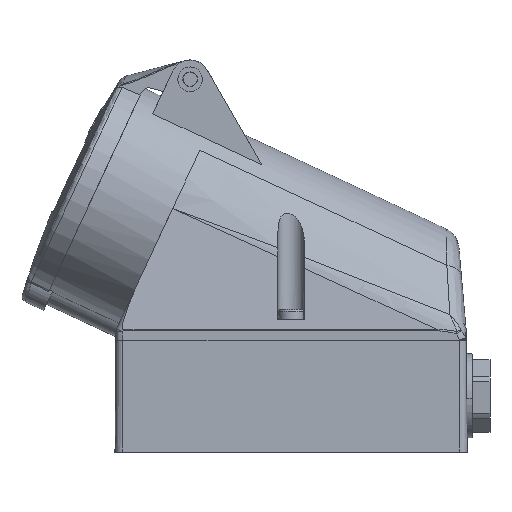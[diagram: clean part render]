
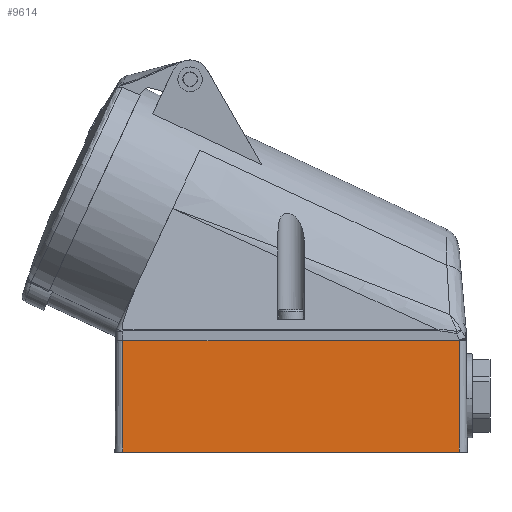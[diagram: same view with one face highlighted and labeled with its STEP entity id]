
A CAD part, front view. The second image highlights one B-rep face of the part: STEP entity #9614.
In plain terms, the highlighted planar face has unit normal (0, -1, 0.009).
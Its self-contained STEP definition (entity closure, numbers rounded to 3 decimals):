
#787=DIRECTION('',(0.,-0.009,-1.));
#788=VECTOR('',#787,31.801);
#789=CARTESIAN_POINT('',(-48.,-37.25,-1.2));
#790=LINE('1047',#789,#788);
#1109=DIRECTION('',(-1.,0.,0.));
#1110=VECTOR('',#1109,96.);
#1111=CARTESIAN_POINT('',(48.,-37.528,-33.));
#1112=LINE('726',#1111,#1110);
#1352=DIRECTION('',(1.,0.,0.));
#1353=VECTOR('',#1352,96.);
#1354=CARTESIAN_POINT('',(-48.,-37.25,-1.2));
#1355=LINE('1030',#1354,#1353);
#1359=DIRECTION('',(0.,-0.009,-1.));
#1360=VECTOR('',#1359,31.801);
#1361=CARTESIAN_POINT('',(48.,-37.25,-1.2));
#1362=LINE('1046',#1361,#1360);
#7732=CARTESIAN_POINT('',(48.,-37.528,-33.));
#7734=VERTEX_POINT('',#7732);
#7735=CARTESIAN_POINT('',(-48.,-37.528,-33.));
#7736=VERTEX_POINT('',#7735);
#8069=CARTESIAN_POINT('',(-48.,-37.25,-1.2));
#8070=CARTESIAN_POINT('',(48.,-37.25,-1.2));
#8071=VERTEX_POINT('',#8069);
#8072=VERTEX_POINT('',#8070);
#9601=CARTESIAN_POINT('',(49.2,-37.25,-1.2));
#9602=DIRECTION('',(0.,-1.,0.009));
#9603=DIRECTION('',(1.,0.,0.));
#9604=AXIS2_PLACEMENT_3D('',#9601,#9602,#9603);
#9605=PLANE('418',#9604);
#9607=ORIENTED_EDGE('1030',*,*,#9606,.T.);
#9609=ORIENTED_EDGE('1046',*,*,#9608,.T.);
#9610=ORIENTED_EDGE('726',*,*,#9303,.T.);
#9611=ORIENTED_EDGE('1047',*,*,#8895,.F.);
#9612=EDGE_LOOP('418',(#9607,#9609,#9610,#9611));
#9613=FACE_OUTER_BOUND('418',#9612,.F.);
#8895=EDGE_CURVE('1047',#8071,#7736,#790,.T.);
#9303=EDGE_CURVE('726',#7734,#7736,#1112,.T.);
#9606=EDGE_CURVE('1030',#8071,#8072,#1355,.T.);
#9608=EDGE_CURVE('1046',#8072,#7734,#1362,.T.);
#9614=ADVANCED_FACE('418',(#9613),#9605,.T.);
